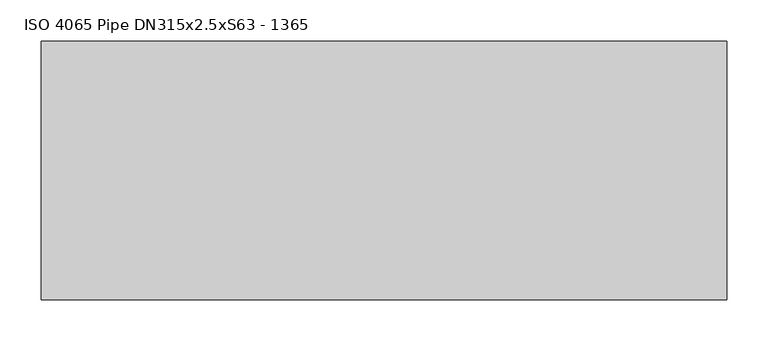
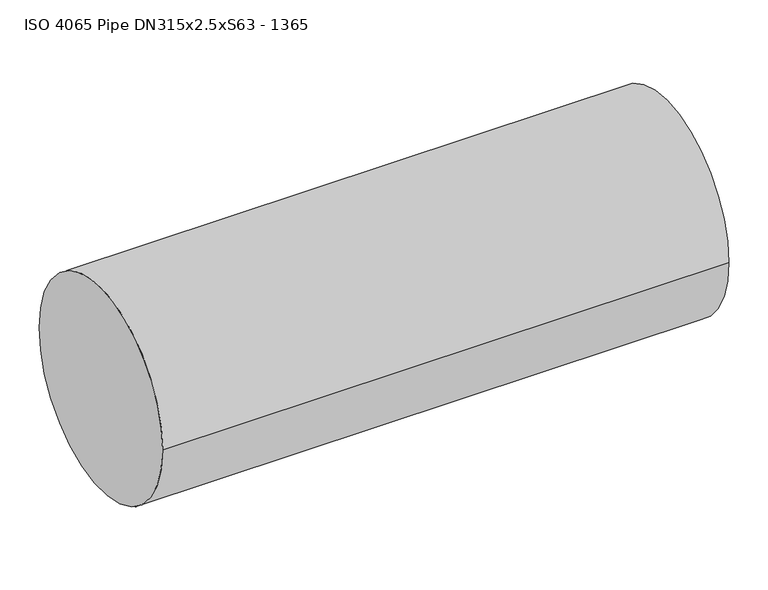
"""IFC4 building model written with IfcOpenShell, lengths in millimetres: proxy geometry, ISO 4065 Pipe DN315x2.5xS63 - 1365."""

from ifc_helpers import new_model, si_unit, point, frame, origin, origin_2d, place, context, project, spatial, circle_curve, trimmed, segment, composite_curve, outline, extrude, source, transform, mapped, element, save


def iso_4065_pipe_dn315x2_5xs63_1365_7b087b5c(model_context):
    return source(origin(), model_context, "Body", "SweptSolid", [
        extrude(outline(composite_curve([segment(trimmed(circle_curve(origin_2d(), 157.5), [point((157.5, 0.0))], [point((-157.5, 0.0))], False, "CARTESIAN"), True, "CONTINUOUS"), segment(trimmed(circle_curve(origin_2d(), 157.5), [point((-157.5, 0.0))], [point((157.5, 0.0))], False, "CARTESIAN"), True, "CONTINUOUS")], self_intersect=False)), frame((0.0, 0.0, 0.0), z_axis=(1.0, 0.0, 0.0), x_axis=(0.0, 1.0, 0.0)), (0.0, 0.0, 1.0), 835.0),
    ])


if __name__ == "__main__":
    model = new_model("IFC4")
    model_context = context("Model", 3, world=origin())
    ifc_project = project(units=[si_unit("LENGTHUNIT", "METRE", prefix="MILLI")], contexts=[model_context])
    site = spatial("IfcSite", under=ifc_project)
    building = spatial("IfcBuilding", under=site)
    placement = place(None, origin())
    iso_4065_pipe_dn315x2_5xs63_1365_shape = iso_4065_pipe_dn315x2_5xs63_1365_7b087b5c(model_context)
    element("IfcBuildingElementProxy", 1, Name="ISO 4065 Pipe DN315x2.5xS63 - 1365", ObjectType="ISO 4065 Pipe DN315x2.5xS63 - 1365", at=placement, inside=building, context=model_context, shape_type="MappedRepresentation", body=[
        mapped(iso_4065_pipe_dn315x2_5xs63_1365_shape, transform((0.0, 0.0, 0.0), x_axis=(1.0, 0.0, 0.0), y_axis=(0.0, 1.0, 0.0), z_axis=(0.0, 0.0, 1.0))),
    ])
    save(model, "model.ifc")
